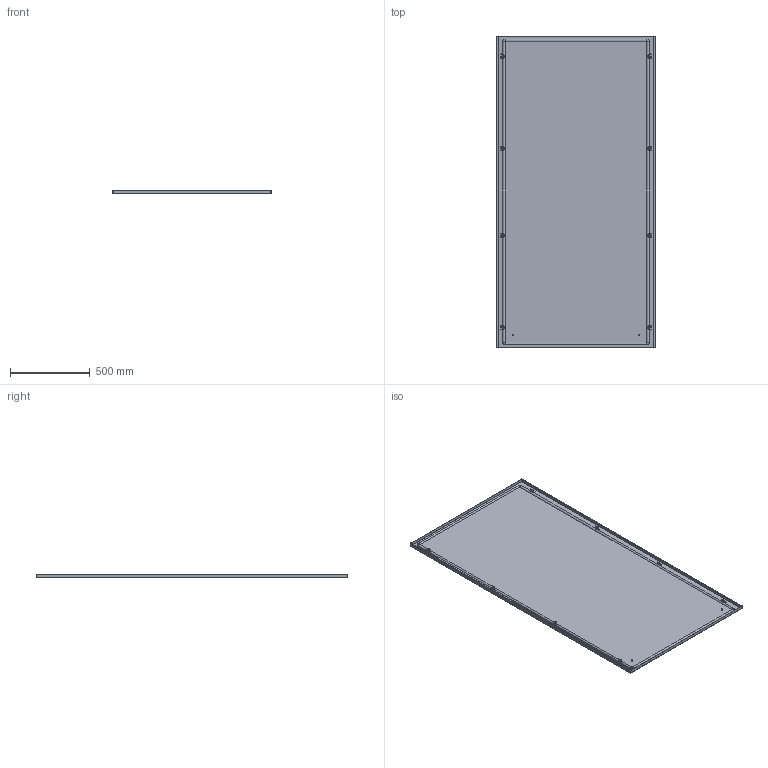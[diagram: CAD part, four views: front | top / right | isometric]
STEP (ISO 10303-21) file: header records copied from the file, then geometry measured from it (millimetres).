
FILE_DESCRIPTION(('Open CASCADE Model'),'2;1');
FILE_NAME('Open CASCADE Shape Model','2025-02-07T16:30:53',('Author'),( 'Open CASCADE'),'Open CASCADE STEP processor 7.8','Open CASCADE 7.8' ,'Unknown');
FILE_SCHEMA(('AUTOMOTIVE_DESIGN { 1 0 10303 214 1 1 1 1 }'));
Length unit declared in the file: millimetre
Products named in the file (10): Compound1; Compound2; Compound3; Solid1; Solid2; Solid3; Solid4; Solid5; Solid6; Solid7
Assembly tree (40 placements, depth 4):
  Compound1
    Compound2
      Compound3
        Solid1
        Solid2  x4
      Solid3
    Solid4  x8
    Solid5  x8
    Solid6  x8
    Solid7  x8
Bounding box: 994 x 1955 x 23.8 mm (x, y, z)
Volume: 3655384 mm3; surface area: 4442711.6 mm2
Topology: 38 solids, 38 shells, 1655 faces, 4040 edges, 2460 vertices
Faces by surface type: plane 1043, cone 308, cylinder 268, torus 28, bspline 8
Full cylindrical faces by diameter (mm): 5 x16, 6 x132, 7.5 x4, 8 x16, 10 x8, 11.57 x8
Entity records: 7757 total; most frequent: CARTESIAN_POINT 1447, DIRECTION 1265, ORIENTED_EDGE 1244, EDGE_CURVE 622, AXIS2_PLACEMENT_3D 428, LINE 409, VECTOR 409, VERTEX_POINT 387
